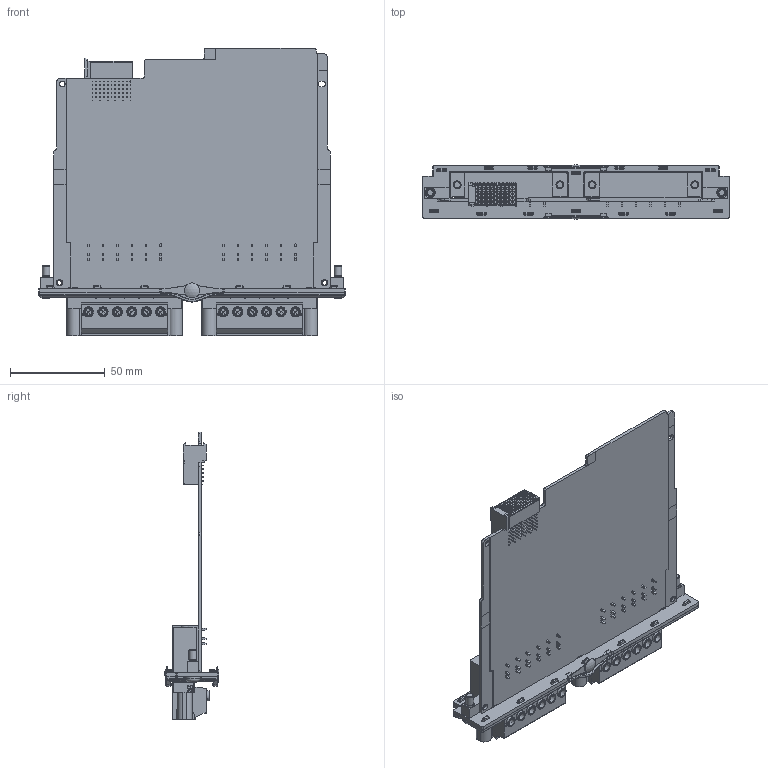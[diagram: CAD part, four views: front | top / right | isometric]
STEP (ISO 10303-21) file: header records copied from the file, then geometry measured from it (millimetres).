
FILE_DESCRIPTION(/* description */ (''),/* implementation_level */ '2;1');
FILE_NAME(/* name */ 'ACM3.2_3D CAD_20250228.stp',/* time_stamp */ '2025-02-28T14:31:30+01:00',/* author */ ('DSP'),/* organization */ (''),/* preprocessor_version */ 'ST-DEVELOPER v19.2',/* originating_system */ 'Autodesk Inventor 2023',/* authorisation */ '');
FILE_SCHEMA (('AUTOMOTIVE_DESIGN { 1 0 10303 214 3 1 1 }'));
Products named in the file (1): ACM3.2_3D CAD_SMPL_20250228
Bounding box: 162 x 28.81 x 152.05 mm (x, y, z)
Volume: 119269.8 mm3; surface area: 77123.3 mm2
Topology: 1 solids, 1 shells, 4175 faces, 10717 edges, 6748 vertices
Faces by surface type: plane 2863, cylinder 954, bspline 178, sphere 100, torus 46, cone 34
Full cylindrical faces by diameter (mm): 0.457 x2, 0.6 x4, 1.3 x2, 2.459 x2, 2.5 x10, 3 x2, 3.05 x1, 3.2 x4, 3.242 x2, 4 x14, 4.2 x4, 4.4 x2, 5 x4, 5.4 x12, 5.5 x2, 6.4 x4, 8 x2
Entity records: 136379 total; most frequent: CARTESIAN_POINT 30214, ORIENTED_EDGE 21282, DIRECTION 20821, EDGE_CURVE 10641, LINE 7845, VECTOR 7845, VERTEX_POINT 6748, AXIS2_PLACEMENT_3D 6488
